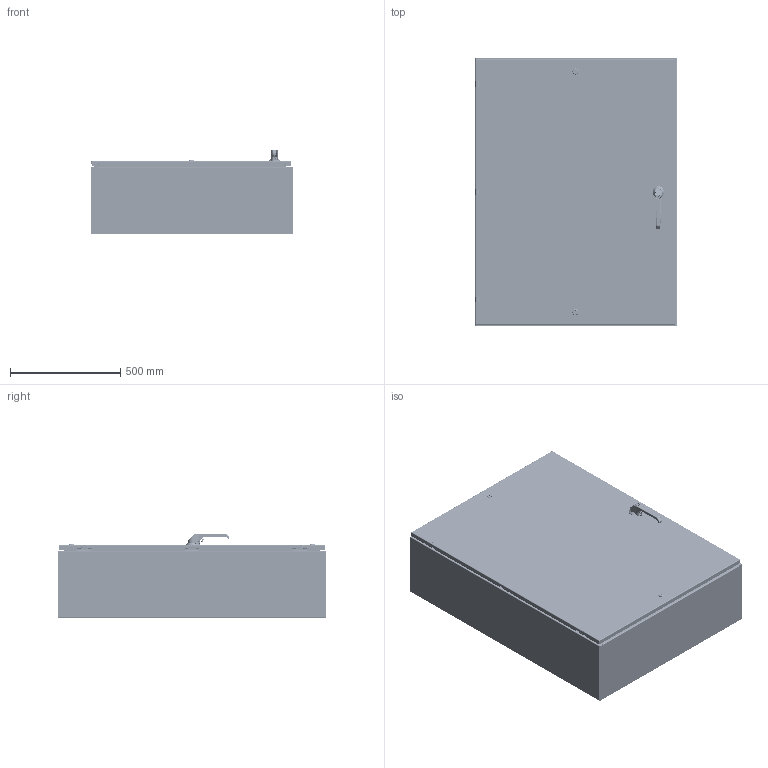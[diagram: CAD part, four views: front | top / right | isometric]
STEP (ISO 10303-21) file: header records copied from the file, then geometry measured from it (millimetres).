
FILE_DESCRIPTION((''),'2;1');
FILE_NAME('MODEL-032_ASM','2022-12-21T09:41:09',('Tony.Gonzales'),('SAGINAW CONTROL & ENGINEERING'),'CREO PARAMETRIC BY PTC INC, 2021284','CREO PARAMETRIC BY PTC INC, 2021284','');
FILE_SCHEMA(('AUTOMOTIVE_DESIGN { 1 0 10303 214 1 1 1 1 }'));
Length unit declared in the file: inch
Products named in the file (56): MODEL-032-BDY; MODEL-032-TP; MODEL-032-BTM; MODEL-032-DR; 100837; 100882; 111267; 100794_SHAFT; 100794_INSERT; 100794_CAM; 100794_NUT; 100794_SCREW; 100794_ASM; 100954_HANDLE; 100954_HANDLE_INSERT; 100954_SHAFT_CAM; 100954_ADAPTER_CAM; 100954_NUT_CAM; 100954_BASE; 100954_O-RING; 100954_WASHER_SEALING; 100954_NUT_MOUNTING_LARGE; 100954_NUT_MOUNTING_SMALL; 100954_SCREW_SMALL; 100954_INSERT; 100954_PADLOCK_CATCH; 100954_STOP_CAM; 100954_ASM; 102237; 100030; 102237_ASM; MODEL-032-ROD-UPR; 128146; 128145; 128144; 102482; MODEL-032-ROD-UPR_ASM; 128143; 112504; MODEL-032-ROD-LWR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
Assembly tree (105 placements, depth 4):
  MODEL-032_ASM
    MODEL-032-BDY
    MODEL-032-TP
    MODEL-032-BTM
    MODEL-032-DOOR-ASSY_ASM
      MODEL-032-DR
      100837  x5
      100882  x4
      111267
      100794_ASM  x2
        100794_SHAFT
        100794_INSERT
        100794_CAM
        100794_NUT
        100794_SCREW
      100954_ASM
        100954_HANDLE
        100954_HANDLE_INSERT
        100954_SHAFT_CAM
        100954_ADAPTER_CAM
        100954_NUT_CAM
        100954_BASE
        100954_O-RING
        100954_WASHER_SEALING
        100954_NUT_MOUNTING_LARGE
        100954_NUT_MOUNTING_SMALL
        100954_SCREW_SMALL
        100954_INSERT
        100954_PADLOCK_CATCH
        100954_STOP_CAM
      102237_ASM
        102237
        100030  x2
      MODEL-032-ROD-UPR_ASM
        MODEL-032-ROD-UPR
        128146
        128145
        128144
        102482  x2
      128143  x2
      112504  x2
      MODEL-032-ROD-LWR_ASM
        MODEL-032-ROD-LWR
        128146
        128145
        128144
        102482  x2
      MODEL-032-POUR-GSKT
      126391_ASM  x3
        126391
      126393  x3
      102483  x9
      101376  x3
      101226  x3
      102140  x3
    100837
    101653  x8
    122193
    SUBPANEL-SUBASSEMBLY_ASM
      SUBPANEL
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Bounding box: 914.4 x 1219.2 x 382.23 mm (x, y, z)
Volume: 11503264.3 mm3; surface area: 10219428.1 mm2
Topology: 103 solids, 103 shells, 7887 faces, 20030 edges, 12409 vertices
Faces by surface type: plane 3042, cylinder 2151, bspline 1217, torus 623, cone 602, sphere 252
Entity records: 231375 total; most frequent: CARTESIAN_POINT 76954, ORIENTED_EDGE 23470, DIRECTION 21733, PRESENTATION_STYLE_ASSIGNMENT 12061, EDGE_CURVE 11735, STYLED_ITEM 11681, CURVE_STYLE 11573, AXIS2_PLACEMENT_3D 8067
